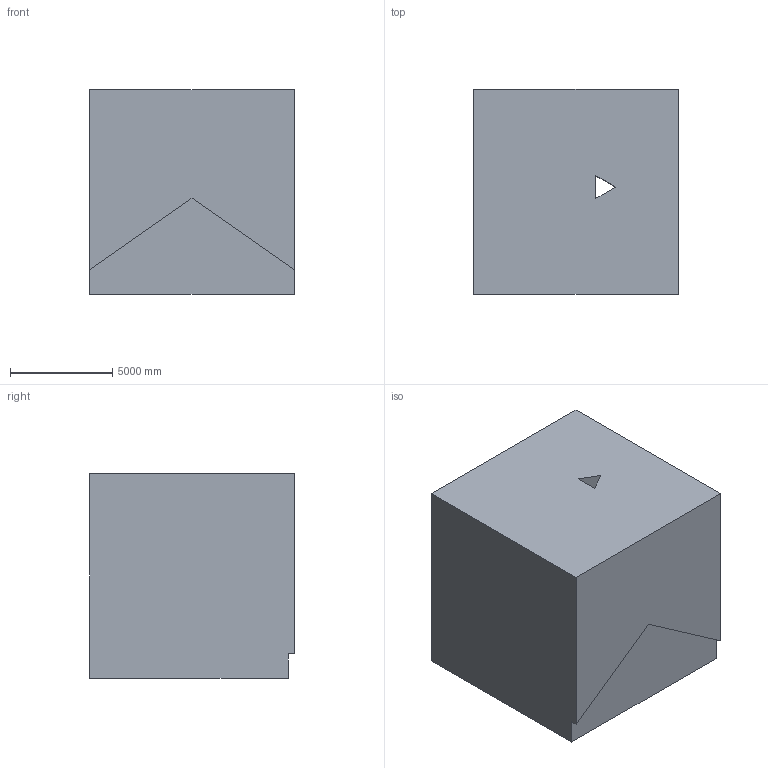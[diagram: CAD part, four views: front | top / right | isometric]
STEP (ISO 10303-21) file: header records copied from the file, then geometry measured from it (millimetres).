
FILE_DESCRIPTION (( 'STEP AP203' ), '1' );
FILE_NAME ('113.STEP', '2022-09-06T12:33:21', ( 'user' ), ( '' ), 'SwSTEP 2.0', 'SolidWorks 2021', '' );
FILE_SCHEMA (( 'CONFIG_CONTROL_DESIGN' ));
Length unit declared in the file: centimetre
Products named in the file (1): 113
Bounding box: 10000 x 10000 x 10000 mm (x, y, z)
Volume: 985593971376 mm3; surface area: 632598242.9 mm2
Topology: 1 solids, 1 shells, 12 faces, 30 edges, 20 vertices
Faces by surface type: plane 12
Entity records: 435 total; most frequent: CARTESIAN_POINT 63, ORIENTED_EDGE 60, DIRECTION 56, EDGE_CURVE 30, VECTOR 30, LINE 30, VERTEX_POINT 20, EDGE_LOOP 14
